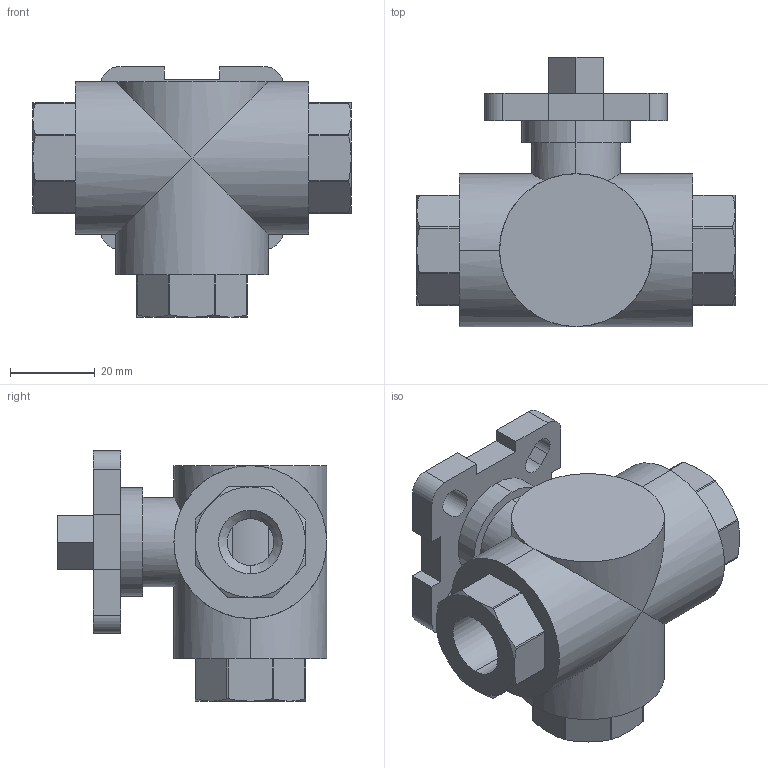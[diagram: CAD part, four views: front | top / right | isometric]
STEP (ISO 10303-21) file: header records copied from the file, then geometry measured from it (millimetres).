
FILE_DESCRIPTION (( 'STEP AP203' ), '1' );
FILE_NAME ('04.622I0100FVPB0.STEP', '2018-10-05T12:14:55', ( '' ), ( '' ), 'SwSTEP 2.0', 'SolidWorks 2014', '' );
FILE_SCHEMA (( 'CONFIG_CONTROL_DESIGN' ));
Length unit declared in the file: millimetre
Products named in the file (1): 04.622I0100FVPB0
Bounding box: 75 x 63.5 x 59 mm (x, y, z)
Volume: 93629.9 mm3; surface area: 20783.6 mm2
Topology: 1 solids, 1 shells, 171 faces, 435 edges, 275 vertices
Faces by surface type: plane 73, cylinder 68, cone 30
Entity records: 5580 total; most frequent: CARTESIAN_POINT 1394, ORIENTED_EDGE 870, DIRECTION 847, EDGE_CURVE 435, AXIS2_PLACEMENT_3D 314, VERTEX_POINT 275, VECTOR 219, LINE 219
